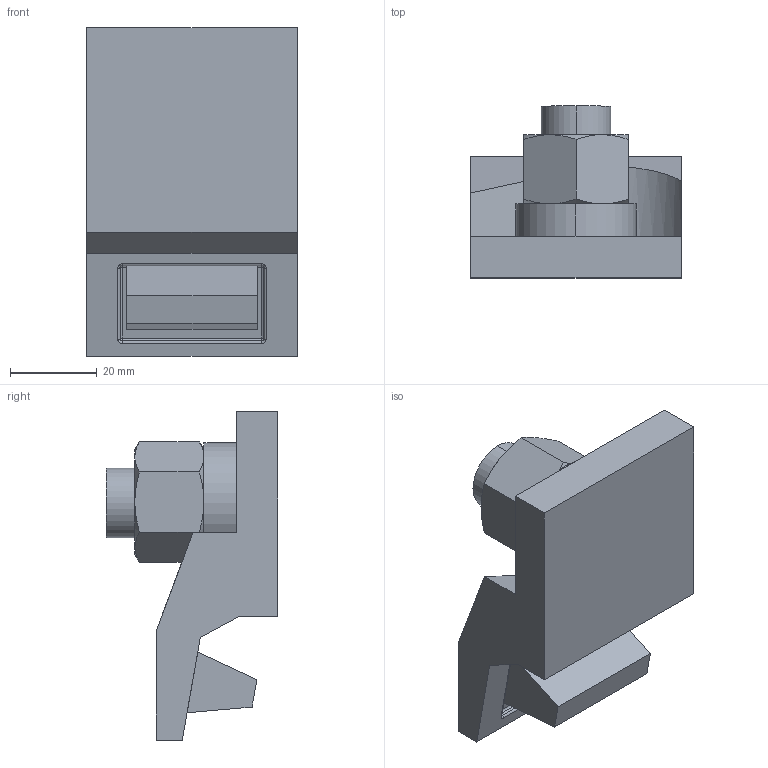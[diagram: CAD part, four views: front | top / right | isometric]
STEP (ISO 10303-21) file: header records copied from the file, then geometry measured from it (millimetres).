
FILE_DESCRIPTION (( 'STEP AP214' ), '1' );
FILE_NAME ('4116-10-28.STEP', '2020-10-14T09:18:44', ( '' ), ( '' ), 'SwSTEP 2.0', 'SolidWorks 2020', '' );
FILE_SCHEMA (( 'AUTOMOTIVE_DESIGN' ));
Length unit declared in the file: millimetre
Products named in the file (5): 4116-10-28 ; 4116-10-28; Washer m16; hex nut gradec_bsi_BS EN 24034 - M16 - N; 34mm Nose
Assembly tree (4 placements, depth 2):
  4116-10-28
    4116-10-28 
    Washer m16
    hex nut gradec_bsi_BS EN 24034 - M16 - N
    34mm Nose
Bounding box: 48.5 x 39.5 x 75.5 mm (x, y, z)
Volume: 58789.3 mm3; surface area: 19753.4 mm2
Topology: 4 solids, 4 shells, 302 faces, 753 edges, 482 vertices
Faces by surface type: plane 170, bspline 71, cylinder 32, cone 16, sphere 9, torus 4
Entity records: 14036 total; most frequent: CARTESIAN_POINT 7329, ORIENTED_EDGE 1490, DIRECTION 1059, EDGE_CURVE 745, VERTEX_POINT 480, VECTOR 417, LINE 417, EDGE_LOOP 335
